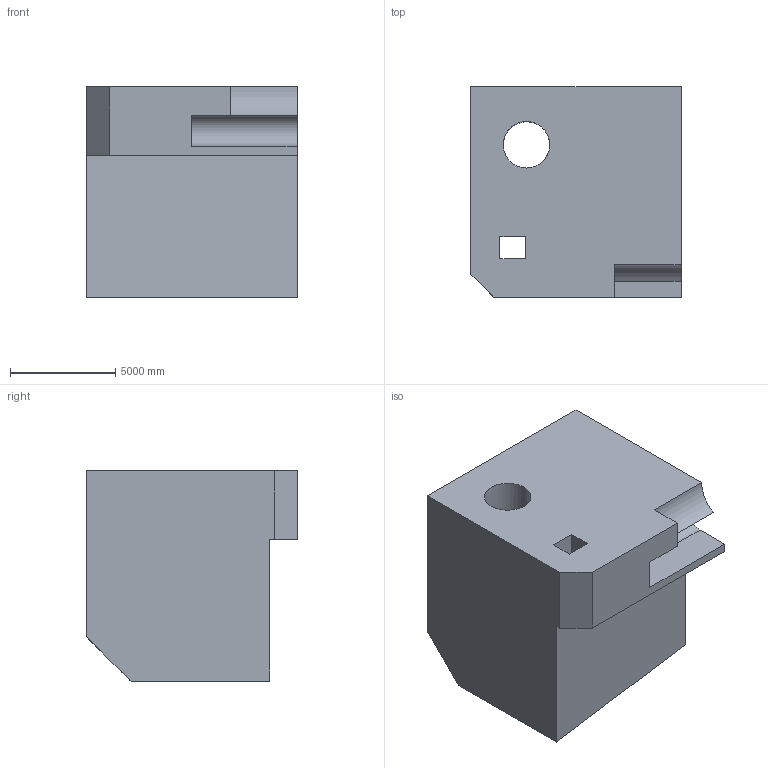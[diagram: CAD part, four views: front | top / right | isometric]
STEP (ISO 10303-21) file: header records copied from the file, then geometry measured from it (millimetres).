
FILE_DESCRIPTION (( 'STEP AP203' ), '1' );
FILE_NAME ('140.STEP', '2022-08-31T14:22:52', ( 'user' ), ( '' ), 'SwSTEP 2.0', 'SolidWorks 2021', '' );
FILE_SCHEMA (( 'CONFIG_CONTROL_DESIGN' ));
Length unit declared in the file: centimetre
Products named in the file (1): 140
Bounding box: 10000 x 10000 x 10000 mm (x, y, z)
Volume: 747512941300.2 mm3; surface area: 711772951.1 mm2
Topology: 1 solids, 1 shells, 29 faces, 87 edges, 58 vertices
Faces by surface type: plane 25, cylinder 4
Entity records: 1059 total; most frequent: CARTESIAN_POINT 199, ORIENTED_EDGE 174, DIRECTION 148, EDGE_CURVE 87, LINE 70, VECTOR 70, VERTEX_POINT 58, AXIS2_PLACEMENT_3D 39
